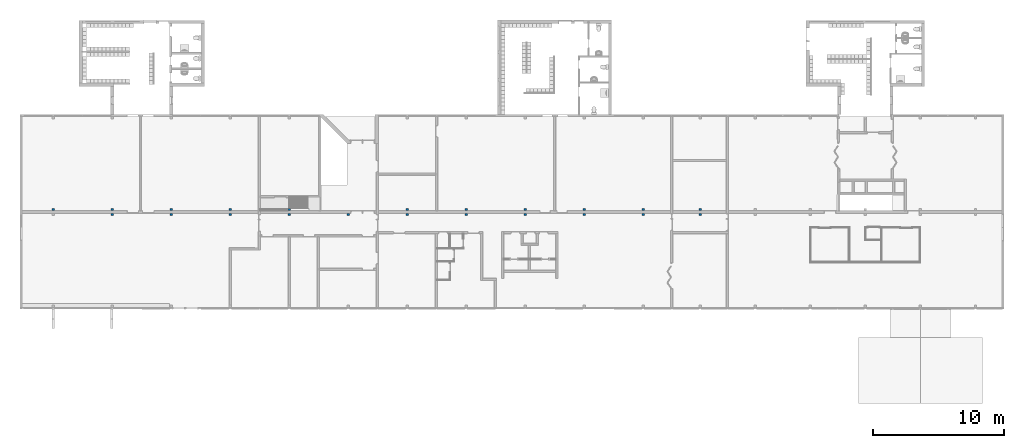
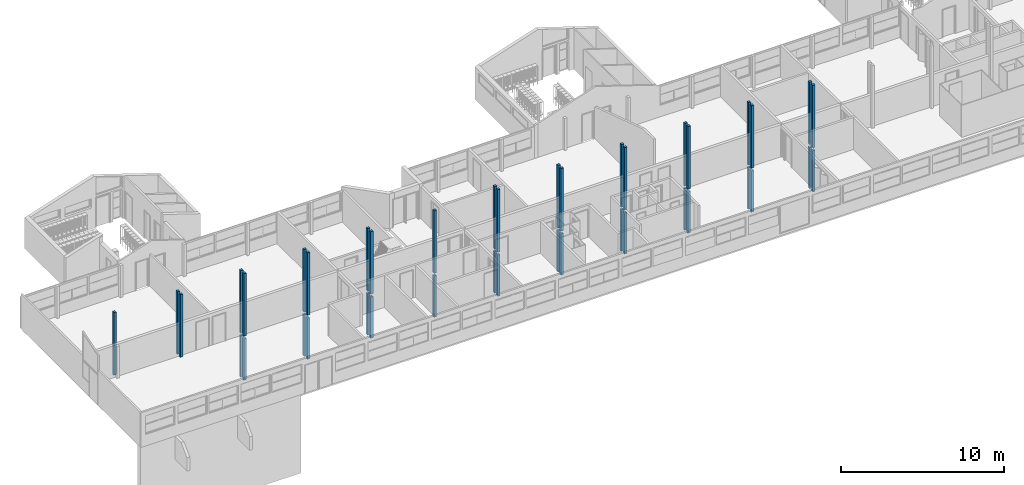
# One storey, part 1 of 48: 44 columns.
"""IFC2X3 building model written with IfcOpenShell, lengths in millimetres."""

from ifc_helpers import new_model, entity, si_unit, converted_unit, derived_unit, money_unit, direction, frame, origin_with_axes, place, context, subcontext, project, spatial, faceted_brep, source, transform, mapped, material, type_object, element, save


model = new_model("IFC2X3")

# Units and contexts
model_context = context("Model", 3, precision=0.01, world=origin_with_axes(), true_north=direction((0.0, 1.0)))
body_context = subcontext(model_context, "Body", "Model", "MODEL_VIEW")
ifc_project = project(units=[si_unit("LENGTHUNIT", "METRE", prefix="MILLI"), si_unit("AREAUNIT", "SQUARE_METRE"), si_unit("VOLUMEUNIT", "CUBIC_METRE"), converted_unit("PLANEANGLEUNIT", "DEGREE", entity("IfcPlaneAngleMeasure", 0.0174532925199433), si_unit("PLANEANGLEUNIT", "RADIAN"), dimensions=[0, 0, 0, 0, 0, 0, 0]), money_unit("USD"), converted_unit("TIMEUNIT", "Year", entity("IfcTimeMeasure", 31557600.0), si_unit("TIMEUNIT", "SECOND"), dimensions=[0, 0, 1, 0, 0, 0, 0]), si_unit("MASSUNIT", "GRAM", prefix="KILO"), si_unit("THERMODYNAMICTEMPERATUREUNIT", "DEGREE_CELSIUS"), si_unit("LUMINOUSINTENSITYUNIT", "LUMEN"), si_unit("ENERGYUNIT", "JOULE", prefix="MEGA"), derived_unit("THERMALCONDUCTANCEUNIT", [(si_unit("POWERUNIT", "WATT"), 1), (si_unit("LENGTHUNIT", "METRE"), -1), (si_unit("THERMODYNAMICTEMPERATUREUNIT", "KELVIN"), -1)]), derived_unit("SPECIFICHEATCAPACITYUNIT", [(si_unit("ENERGYUNIT", "JOULE"), 1), (si_unit("MASSUNIT", "GRAM", prefix="KILO"), -1), (si_unit("THERMODYNAMICTEMPERATUREUNIT", "KELVIN"), -1)]), derived_unit("MASSDENSITYUNIT", [(si_unit("MASSUNIT", "GRAM", prefix="KILO"), 1), (si_unit("VOLUMEUNIT", "CUBIC_METRE"), -1)])], contexts=[model_context])

# Site, building, storey
site_placement = place(None, origin_with_axes())
site = spatial("IfcSite", under=ifc_project, at=site_placement, Name="Site", CompositionType="ELEMENT")
building_placement = place(site_placement, origin_with_axes())
building = spatial("IfcBuilding", under=site, at=building_placement, Name="Building", CompositionType="ELEMENT")
storey_placement = place(building_placement, frame((0.0, 0.0, 3300.0), z_axis=(0.0, 0.0, 1.0), x_axis=(1.0, 0.0, 0.0)))
storey = spatial("IfcBuildingStorey", under=building, at=storey_placement, Name="1 ETG", CompositionType="ELEMENT", Elevation=3300.0)

# Columns
ifc_material = material(Name="GENERIC - STRUCTURAL")
column_type = type_object("IfcColumnType", Name="GENERIC - STRUCTURAL 180 x 180", PredefinedType="COLUMN")
shared_shape_1 = source(origin_with_axes(), body_context, "Body", "Brep", [
    faceted_brep([(4589.999999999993, 14220.0, 8000.0), (4409.999999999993, 14220.0, 8000.0), (4409.999999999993, 14220.0, 3300.0), (4589.999999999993, 14220.0, 3300.0), (4589.999999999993, 14400.0, 8000.0), (4409.999999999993, 14400.0, 8000.0), (4409.999999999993, 14400.0, 3300.0), (4589.999999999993, 14400.0, 3300.0)], [[[0, 1, 2, 3]], [[4, 5, 1, 0]], [[1, 5, 6, 2]], [[7, 3, 2, 6]], [[4, 0, 3, 7]], [[5, 4, 7, 6]]]),
])
for number, where, z_axis, x_axis, name in (
    (1, (4499.999999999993, 14310.0, 0.0), (0.0, 0.0, 1.0), (1.0, 0.0, 0.0), "CRE - 001"),
    (2, (4499.999999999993, 14310.0, 0.0), (0.0, 0.0, 1.0), (1.0, 0.0, 0.0), "CRE - 001"),
):
    element("IfcColumn", number, at=place(storey_placement, frame(where, z_axis=z_axis, x_axis=x_axis)), inside=storey, type_object=column_type, material=ifc_material, Name=name, ObjectType="COLUMN", context=body_context, shape_type="MappedRepresentation", body=[
        mapped(shared_shape_1, transform((-4499.999999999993, -14310.0, -3300.0))),
    ])
shared_shape_2 = source(origin_with_axes(), body_context, "Body", "Brep", [
    faceted_brep([(8910.0, 14400.0, 0.0), (8910.0, 14400.0, 3100.0), (9090.0, 14400.0, 3100.0), (9090.0, 14400.0, 0.0), (8910.0, 14220.0, 0.0), (8910.0, 14220.0, 3100.0), (9090.0, 14220.0, 3100.0), (9090.0, 14220.0, 0.0)], [[[0, 1, 2, 3]], [[4, 5, 1, 0]], [[5, 6, 2, 1]], [[3, 2, 6, 7]], [[3, 7, 4, 0]], [[7, 6, 5, 4]]]),
    faceted_brep([(9090.0, 14220.0, 8000.0), (9090.0, 14220.0, 3300.0), (9090.0, 14400.0, 3300.0), (9090.0, 14400.0, 8000.0), (8910.0, 14220.0, 8000.0), (8910.0, 14220.0, 3300.0), (8910.0, 14400.0, 3300.0), (8910.0, 14400.0, 8000.0)], [[[0, 1, 2, 3]], [[4, 5, 1, 0]], [[5, 6, 2, 1]], [[3, 2, 6, 7]], [[3, 7, 4, 0]], [[7, 6, 5, 4]]]),
])
for number, where, z_axis, x_axis, name in (
    (3, (9000.0, 14310.0, -3300.0), (0.0, 0.0, 1.0), (1.0, 0.0, 0.0), "CRE - 001"),
    (4, (9000.0, 14310.0, -3300.0), (0.0, 0.0, 1.0), (1.0, 0.0, 0.0), "CRE - 001"),
):
    element("IfcColumn", number, at=place(storey_placement, frame(where, z_axis=z_axis, x_axis=x_axis)), inside=storey, type_object=column_type, material=ifc_material, Name=name, ObjectType="COLUMN", context=body_context, shape_type="MappedRepresentation", body=[
        mapped(shared_shape_2, transform((-9000.0, -14310.0, 0.0))),
    ])
shared_shape_3 = source(origin_with_axes(), body_context, "Body", "Brep", [
    faceted_brep([(13410.0, 14400.0, 0.0), (13410.0, 14400.0, 3100.0), (13590.0, 14400.0, 3100.0), (13590.0, 14400.0, 0.0), (13410.0, 14220.0, 0.0), (13410.0, 14220.0, 3100.0), (13590.0, 14220.0, 3100.0), (13590.0, 14220.0, 0.0)], [[[0, 1, 2, 3]], [[4, 5, 1, 0]], [[5, 6, 2, 1]], [[3, 2, 6, 7]], [[3, 7, 4, 0]], [[7, 6, 5, 4]]]),
    faceted_brep([(13590.0, 14220.0, 8000.0), (13590.0, 14220.0, 3300.0), (13590.0, 14400.0, 3300.0), (13590.0, 14400.0, 8000.0), (13410.0, 14220.0, 8000.0), (13410.0, 14220.0, 3300.0), (13410.0, 14400.0, 3300.0), (13410.0, 14400.0, 8000.0)], [[[0, 1, 2, 3]], [[4, 5, 1, 0]], [[5, 6, 2, 1]], [[3, 2, 6, 7]], [[3, 7, 4, 0]], [[7, 6, 5, 4]]]),
])
for number, where, z_axis, x_axis, name in (
    (5, (13500.0, 14310.0, -3300.0), (0.0, 0.0, 1.0), (1.0, 0.0, 0.0), "CRE - 001"),
    (6, (13500.0, 14310.0, -3300.0), (0.0, 0.0, 1.0), (1.0, 0.0, 0.0), "CRE - 001"),
):
    element("IfcColumn", number, at=place(storey_placement, frame(where, z_axis=z_axis, x_axis=x_axis)), inside=storey, type_object=column_type, material=ifc_material, Name=name, ObjectType="COLUMN", context=body_context, shape_type="MappedRepresentation", body=[
        mapped(shared_shape_3, transform((-13500.0, -14310.0, 0.0))),
    ])
shared_shape_4 = source(origin_with_axes(), body_context, "Body", "Brep", [
    faceted_brep([(17910.00000000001, 14400.0, 0.0), (17910.00000000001, 14400.0, 3100.0), (18090.00000000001, 14400.0, 3100.0), (18090.00000000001, 14400.0, 0.0), (17910.00000000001, 14220.0, 0.0), (17910.00000000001, 14220.0, 3100.0), (18090.00000000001, 14220.0, 3100.0), (18090.00000000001, 14220.0, 0.0)], [[[0, 1, 2, 3]], [[4, 5, 1, 0]], [[5, 6, 2, 1]], [[3, 2, 6, 7]], [[3, 7, 4, 0]], [[7, 6, 5, 4]]]),
    faceted_brep([(18090.00000000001, 14220.0, 8000.0), (18090.00000000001, 14220.0, 3300.0), (18090.00000000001, 14400.0, 3300.0), (18090.00000000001, 14400.0, 8000.0), (17910.00000000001, 14220.0, 8000.0), (17910.00000000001, 14220.0, 3300.0), (17910.00000000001, 14400.0, 3300.0), (17910.00000000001, 14400.0, 8000.0)], [[[0, 1, 2, 3]], [[4, 5, 1, 0]], [[5, 6, 2, 1]], [[3, 2, 6, 7]], [[3, 7, 4, 0]], [[7, 6, 5, 4]]]),
])
for number, where, z_axis, x_axis, name in (
    (7, (18000.00000000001, 14310.0, -3300.0), (0.0, 0.0, 1.0), (1.0, 0.0, 0.0), "CRE - 001"),
    (8, (18000.00000000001, 14310.0, -3300.0), (0.0, 0.0, 1.0), (1.0, 0.0, 0.0), "CRE - 001"),
):
    element("IfcColumn", number, at=place(storey_placement, frame(where, z_axis=z_axis, x_axis=x_axis)), inside=storey, type_object=column_type, material=ifc_material, Name=name, ObjectType="COLUMN", context=body_context, shape_type="MappedRepresentation", body=[
        mapped(shared_shape_4, transform((-18000.00000000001, -14310.0, 0.0))),
    ])
shared_shape_5 = source(origin_with_axes(), body_context, "Body", "Brep", [
    faceted_brep([(22410.0, 14400.0, 0.0), (22410.0, 14400.0, 3100.0), (22590.0, 14400.0, 3100.0), (22590.0, 14400.0, 0.0), (22410.0, 14220.0, 0.0), (22410.0, 14220.0, 3100.0), (22590.0, 14220.0, 3100.0), (22590.0, 14220.0, 0.0)], [[[0, 1, 2, 3]], [[4, 5, 1, 0]], [[5, 6, 2, 1]], [[3, 2, 6, 7]], [[3, 7, 4, 0]], [[7, 6, 5, 4]]]),
    faceted_brep([(22590.0, 14220.0, 8000.0), (22590.0, 14220.0, 3300.0), (22590.0, 14400.0, 3300.0), (22590.0, 14400.0, 8000.0), (22410.0, 14220.0, 8000.0), (22410.0, 14220.0, 3300.0), (22410.0, 14400.0, 3300.0), (22410.0, 14400.0, 8000.0)], [[[0, 1, 2, 3]], [[4, 5, 1, 0]], [[5, 6, 2, 1]], [[3, 2, 6, 7]], [[3, 7, 4, 0]], [[7, 6, 5, 4]]]),
])
for number, where, z_axis, x_axis, name in (
    (9, (22500.0, 14310.0, -3300.0), (0.0, 0.0, 1.0), (1.0, 0.0, 0.0), "CRE - 001"),
    (10, (22500.0, 14310.0, -3300.0), (0.0, 0.0, 1.0), (1.0, 0.0, 0.0), "CRE - 001"),
):
    element("IfcColumn", number, at=place(storey_placement, frame(where, z_axis=z_axis, x_axis=x_axis)), inside=storey, type_object=column_type, material=ifc_material, Name=name, ObjectType="COLUMN", context=body_context, shape_type="MappedRepresentation", body=[
        mapped(shared_shape_5, transform((-22500.0, -14310.0, 0.0))),
    ])
shared_shape_6 = source(origin_with_axes(), body_context, "Body", "Brep", [
    faceted_brep([(31410.0, 14400.0, 0.0), (31410.0, 14400.0, 3100.0), (31590.0, 14400.0, 3100.0), (31590.0, 14400.0, 0.0), (31410.0, 14220.0, 0.0), (31410.0, 14220.0, 3100.0), (31590.0, 14220.0, 3100.0), (31590.0, 14220.0, 0.0)], [[[0, 1, 2, 3]], [[4, 5, 1, 0]], [[5, 6, 2, 1]], [[3, 2, 6, 7]], [[3, 7, 4, 0]], [[7, 6, 5, 4]]]),
    faceted_brep([(31590.0, 14220.0, 8000.0), (31590.0, 14220.0, 3300.0), (31590.0, 14400.0, 3300.0), (31590.0, 14400.0, 8000.0), (31410.0, 14220.0, 8000.0), (31410.0, 14220.0, 3300.0), (31410.0, 14400.0, 3300.0), (31410.0, 14400.0, 8000.0)], [[[0, 1, 2, 3]], [[4, 5, 1, 0]], [[5, 6, 2, 1]], [[3, 2, 6, 7]], [[3, 7, 4, 0]], [[7, 6, 5, 4]]]),
])
for number, where, z_axis, x_axis, name in (
    (11, (31500.0, 14310.0, -3300.0), (0.0, 0.0, 1.0), (1.0, 0.0, 0.0), "CRE - 001"),
    (12, (31500.0, 14310.0, -3300.0), (0.0, 0.0, 1.0), (1.0, 0.0, 0.0), "CRE - 001"),
):
    element("IfcColumn", number, at=place(storey_placement, frame(where, z_axis=z_axis, x_axis=x_axis)), inside=storey, type_object=column_type, material=ifc_material, Name=name, ObjectType="COLUMN", context=body_context, shape_type="MappedRepresentation", body=[
        mapped(shared_shape_6, transform((-31500.0, -14310.0, 0.0))),
    ])
shared_shape_7 = source(origin_with_axes(), body_context, "Body", "Brep", [
    faceted_brep([(26910.0, 14400.0, 0.0), (26910.0, 14400.0, 3100.0), (27090.0, 14400.0, 3100.0), (27090.0, 14400.0, 0.0), (26910.0, 14220.0, 0.0), (26910.0, 14220.0, 3100.0), (27090.0, 14220.0, 3100.0), (27090.0, 14220.0, 0.0)], [[[0, 1, 2, 3]], [[4, 5, 1, 0]], [[5, 6, 2, 1]], [[3, 2, 6, 7]], [[3, 7, 4, 0]], [[7, 6, 5, 4]]]),
    faceted_brep([(27090.0, 14220.0, 8000.0), (27090.0, 14220.0, 3300.0), (27090.0, 14400.0, 3300.0), (27090.0, 14400.0, 8000.0), (26910.0, 14220.0, 8000.0), (26910.0, 14220.0, 3300.0), (26910.0, 14400.0, 3300.0), (26910.0, 14400.0, 8000.0)], [[[0, 1, 2, 3]], [[4, 5, 1, 0]], [[5, 6, 2, 1]], [[3, 2, 6, 7]], [[3, 7, 4, 0]], [[7, 6, 5, 4]]]),
])
for number, where, z_axis, x_axis, name in (
    (13, (27000.0, 14310.0, -3300.0), (0.0, 0.0, 1.0), (1.0, 0.0, 0.0), "CRE - 001"),
    (14, (27000.0, 14310.0, -3300.0), (0.0, 0.0, 1.0), (1.0, 0.0, 0.0), "CRE - 001"),
):
    element("IfcColumn", number, at=place(storey_placement, frame(where, z_axis=z_axis, x_axis=x_axis)), inside=storey, type_object=column_type, material=ifc_material, Name=name, ObjectType="COLUMN", context=body_context, shape_type="MappedRepresentation", body=[
        mapped(shared_shape_7, transform((-27000.0, -14310.0, 0.0))),
    ])
shared_shape_8 = source(origin_with_axes(), body_context, "Body", "Brep", [
    faceted_brep([(35910.0, 14400.0, 0.0), (35910.0, 14400.0, 3100.0), (36090.0, 14400.0, 3100.0), (36090.0, 14400.0, 0.0), (35910.0, 14220.0, 0.0), (35910.0, 14220.0, 3100.0), (36090.0, 14220.0, 3100.0), (36090.0, 14220.0, 0.0)], [[[0, 1, 2, 3]], [[4, 5, 1, 0]], [[5, 6, 2, 1]], [[3, 2, 6, 7]], [[3, 7, 4, 0]], [[7, 6, 5, 4]]]),
    faceted_brep([(36090.0, 14220.0, 8000.0), (36090.0, 14220.0, 3300.0), (36090.0, 14400.0, 3300.0), (36090.0, 14400.0, 8000.0), (35910.0, 14220.0, 8000.0), (35910.0, 14220.0, 3300.0), (35910.0, 14400.0, 3300.0), (35910.0, 14400.0, 8000.0)], [[[0, 1, 2, 3]], [[4, 5, 1, 0]], [[5, 6, 2, 1]], [[3, 2, 6, 7]], [[3, 7, 4, 0]], [[7, 6, 5, 4]]]),
])
for number, where, z_axis, x_axis, name in (
    (15, (36000.0, 14310.0, -3300.0), (0.0, 0.0, 1.0), (1.0, 0.0, 0.0), "CRE - 001"),
    (16, (36000.0, 14310.0, -3300.0), (0.0, 0.0, 1.0), (1.0, 0.0, 0.0), "CRE - 001"),
):
    element("IfcColumn", number, at=place(storey_placement, frame(where, z_axis=z_axis, x_axis=x_axis)), inside=storey, type_object=column_type, material=ifc_material, Name=name, ObjectType="COLUMN", context=body_context, shape_type="MappedRepresentation", body=[
        mapped(shared_shape_8, transform((-36000.0, -14310.0, 0.0))),
    ])
shared_shape_9 = source(origin_with_axes(), body_context, "Body", "Brep", [
    faceted_brep([(40410.0, 14400.0, 0.0), (40410.0, 14400.0, 3100.0), (40590.0, 14400.0, 3100.0), (40590.0, 14400.0, 0.0), (40410.0, 14220.0, 0.0), (40410.0, 14220.0, 3100.0), (40590.0, 14220.0, 3100.0), (40590.0, 14220.0, 0.0)], [[[0, 1, 2, 3]], [[4, 5, 1, 0]], [[5, 6, 2, 1]], [[3, 2, 6, 7]], [[3, 7, 4, 0]], [[7, 6, 5, 4]]]),
    faceted_brep([(40590.0, 14220.0, 8000.0), (40590.0, 14220.0, 3300.0), (40590.0, 14400.0, 3300.0), (40590.0, 14400.0, 8000.0), (40410.0, 14220.0, 8000.0), (40410.0, 14220.0, 3300.0), (40410.0, 14400.0, 3300.0), (40410.0, 14400.0, 8000.0)], [[[0, 1, 2, 3]], [[4, 5, 1, 0]], [[5, 6, 2, 1]], [[3, 2, 6, 7]], [[3, 7, 4, 0]], [[7, 6, 5, 4]]]),
])
for number, where, z_axis, x_axis, name in (
    (17, (40500.0, 14310.0, -3300.0), (0.0, 0.0, 1.0), (1.0, 0.0, 0.0), "CRE - 001"),
    (18, (40500.0, 14310.0, -3300.0), (0.0, 0.0, 1.0), (1.0, 0.0, 0.0), "CRE - 001"),
):
    element("IfcColumn", number, at=place(storey_placement, frame(where, z_axis=z_axis, x_axis=x_axis)), inside=storey, type_object=column_type, material=ifc_material, Name=name, ObjectType="COLUMN", context=body_context, shape_type="MappedRepresentation", body=[
        mapped(shared_shape_9, transform((-40500.0, -14310.0, 0.0))),
    ])
shared_shape_10 = source(origin_with_axes(), body_context, "Body", "Brep", [
    faceted_brep([(44909.99999999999, 14400.0, 0.0), (44909.99999999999, 14400.0, 3100.0), (45089.99999999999, 14400.0, 3100.0), (45089.99999999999, 14400.0, 0.0), (44909.99999999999, 14220.0, 0.0), (44909.99999999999, 14220.0, 3100.0), (45089.99999999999, 14220.0, 3100.0), (45089.99999999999, 14220.0, 0.0)], [[[0, 1, 2, 3]], [[4, 5, 1, 0]], [[5, 6, 2, 1]], [[3, 2, 6, 7]], [[3, 7, 4, 0]], [[7, 6, 5, 4]]]),
    faceted_brep([(45089.99999999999, 14220.0, 8000.0), (45089.99999999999, 14220.0, 3300.0), (45089.99999999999, 14400.0, 3300.0), (45089.99999999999, 14400.0, 8000.0), (44909.99999999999, 14220.0, 8000.0), (44909.99999999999, 14220.0, 3300.0), (44909.99999999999, 14400.0, 3300.0), (44909.99999999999, 14400.0, 8000.0)], [[[0, 1, 2, 3]], [[4, 5, 1, 0]], [[5, 6, 2, 1]], [[3, 2, 6, 7]], [[3, 7, 4, 0]], [[7, 6, 5, 4]]]),
])
for number, where, z_axis, x_axis, name in (
    (19, (44999.99999999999, 14310.0, -3300.0), (0.0, 0.0, 1.0), (1.0, 0.0, 0.0), "CRE - 001"),
    (20, (44999.99999999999, 14310.0, -3300.0), (0.0, 0.0, 1.0), (1.0, 0.0, 0.0), "CRE - 001"),
):
    element("IfcColumn", number, at=place(storey_placement, frame(where, z_axis=z_axis, x_axis=x_axis)), inside=storey, type_object=column_type, material=ifc_material, Name=name, ObjectType="COLUMN", context=body_context, shape_type="MappedRepresentation", body=[
        mapped(shared_shape_10, transform((-44999.99999999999, -14310.0, 0.0))),
    ])
shared_shape_11 = source(origin_with_axes(), body_context, "Body", "Brep", [
    faceted_brep([(49259.99999999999, 14400.0, 0.0), (49259.99999999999, 14400.0, 3100.0), (49440.0, 14400.0, 3100.0), (49440.0, 14400.0, 0.0), (49259.99999999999, 14220.0, 0.0), (49259.99999999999, 14220.0, 3100.0), (49440.0, 14220.0, 3100.0), (49440.0, 14220.0, 0.0)], [[[0, 1, 2, 3]], [[4, 5, 1, 0]], [[5, 6, 2, 1]], [[3, 2, 6, 7]], [[3, 7, 4, 0]], [[7, 6, 5, 4]]]),
    faceted_brep([(49440.0, 14220.0, 8000.0), (49440.0, 14220.0, 3300.0), (49440.0, 14400.0, 3300.0), (49440.0, 14400.0, 8000.0), (49259.99999999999, 14220.0, 8000.0), (49259.99999999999, 14220.0, 3300.0), (49259.99999999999, 14400.0, 3300.0), (49259.99999999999, 14400.0, 8000.0)], [[[0, 1, 2, 3]], [[4, 5, 1, 0]], [[5, 6, 2, 1]], [[3, 2, 6, 7]], [[3, 7, 4, 0]], [[7, 6, 5, 4]]]),
])
for number, where, z_axis, x_axis, name in (
    (21, (49349.99999999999, 14310.0, -3300.0), (0.0, 0.0, 1.0), (1.0, 0.0, 0.0), "CRE - 001"),
    (22, (49349.99999999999, 14310.0, -3300.0), (0.0, 0.0, 1.0), (1.0, 0.0, 0.0), "CRE - 001"),
):
    element("IfcColumn", number, at=place(storey_placement, frame(where, z_axis=z_axis, x_axis=x_axis)), inside=storey, type_object=column_type, material=ifc_material, Name=name, ObjectType="COLUMN", context=body_context, shape_type="MappedRepresentation", body=[
        mapped(shared_shape_11, transform((-49349.99999999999, -14310.0, 0.0))),
    ])
shared_shape_12 = source(origin_with_axes(), body_context, "Body", "Brep", [
    faceted_brep([(44909.99999999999, 14780.0, 0.0), (44909.99999999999, 14780.0, 3100.0), (45089.99999999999, 14780.0, 3100.0), (45089.99999999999, 14780.0, 0.0), (44909.99999999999, 14600.0, 0.0), (44909.99999999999, 14600.0, 3100.0), (45089.99999999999, 14600.0, 3100.0), (45089.99999999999, 14600.0, 0.0)], [[[0, 1, 2, 3]], [[4, 5, 1, 0]], [[5, 6, 2, 1]], [[3, 2, 6, 7]], [[3, 7, 4, 0]], [[7, 6, 5, 4]]]),
    faceted_brep([(45089.99999999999, 14600.0, 8000.0), (45089.99999999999, 14600.0, 3300.0), (45089.99999999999, 14780.0, 3300.0), (45089.99999999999, 14780.0, 8000.0), (44909.99999999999, 14600.0, 8000.0), (44909.99999999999, 14600.0, 3300.0), (44909.99999999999, 14780.0, 3300.0), (44909.99999999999, 14780.0, 8000.0)], [[[0, 1, 2, 3]], [[4, 5, 1, 0]], [[5, 6, 2, 1]], [[3, 2, 6, 7]], [[3, 7, 4, 0]], [[7, 6, 5, 4]]]),
])
for number, where, z_axis, x_axis, name in (
    (23, (44999.99999999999, 14690.0, -3300.0), (0.0, 0.0, 1.0), (1.0, 0.0, 0.0), "CRE - 001"),
    (24, (44999.99999999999, 14690.0, -3300.0), (0.0, 0.0, 1.0), (1.0, 0.0, 0.0), "CRE - 001"),
):
    element("IfcColumn", number, at=place(storey_placement, frame(where, z_axis=z_axis, x_axis=x_axis)), inside=storey, type_object=column_type, material=ifc_material, Name=name, ObjectType="COLUMN", context=body_context, shape_type="MappedRepresentation", body=[
        mapped(shared_shape_12, transform((-44999.99999999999, -14690.0, 0.0))),
    ])
shared_shape_13 = source(origin_with_axes(), body_context, "Body", "Brep", [
    faceted_brep([(35910.0, 14780.0, 0.0), (35910.0, 14780.0, 3100.0), (36090.0, 14780.0, 3100.0), (36090.0, 14780.0, 0.0), (35910.0, 14600.0, 0.0), (35910.0, 14600.0, 3100.0), (36090.0, 14600.0, 3100.0), (36090.0, 14600.0, 0.0)], [[[0, 1, 2, 3]], [[4, 5, 1, 0]], [[5, 6, 2, 1]], [[3, 2, 6, 7]], [[3, 7, 4, 0]], [[7, 6, 5, 4]]]),
    faceted_brep([(36090.0, 14600.0, 8000.0), (36090.0, 14600.0, 3300.0), (36090.0, 14780.0, 3300.0), (36090.0, 14780.0, 8000.0), (35910.0, 14600.0, 8000.0), (35910.0, 14600.0, 3300.0), (35910.0, 14780.0, 3300.0), (35910.0, 14780.0, 8000.0)], [[[0, 1, 2, 3]], [[4, 5, 1, 0]], [[5, 6, 2, 1]], [[3, 2, 6, 7]], [[3, 7, 4, 0]], [[7, 6, 5, 4]]]),
])
for number, where, z_axis, x_axis, name in (
    (25, (36000.0, 14690.0, -3300.0), (0.0, 0.0, 1.0), (1.0, 0.0, 0.0), "CRE - 001"),
    (26, (36000.0, 14690.0, -3300.0), (0.0, 0.0, 1.0), (1.0, 0.0, 0.0), "CRE - 001"),
):
    element("IfcColumn", number, at=place(storey_placement, frame(where, z_axis=z_axis, x_axis=x_axis)), inside=storey, type_object=column_type, material=ifc_material, Name=name, ObjectType="COLUMN", context=body_context, shape_type="MappedRepresentation", body=[
        mapped(shared_shape_13, transform((-36000.0, -14690.0, 0.0))),
    ])
shared_shape_14 = source(origin_with_axes(), body_context, "Body", "Brep", [
    faceted_brep([(49259.99999999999, 14780.0, 0.0), (49259.99999999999, 14780.0, 3100.0), (49440.0, 14780.0, 3100.0), (49440.0, 14780.0, 0.0), (49259.99999999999, 14600.0, 0.0), (49259.99999999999, 14600.0, 3100.0), (49440.0, 14600.0, 3100.0), (49440.0, 14600.0, 0.0)], [[[0, 1, 2, 3]], [[4, 5, 1, 0]], [[5, 6, 2, 1]], [[3, 2, 6, 7]], [[3, 7, 4, 0]], [[7, 6, 5, 4]]]),
    faceted_brep([(49440.0, 14600.0, 8000.0), (49440.0, 14600.0, 3300.0), (49440.0, 14780.0, 3300.0), (49440.0, 14780.0, 8000.0), (49259.99999999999, 14600.0, 8000.0), (49259.99999999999, 14600.0, 3300.0), (49259.99999999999, 14780.0, 3300.0), (49259.99999999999, 14780.0, 8000.0)], [[[0, 1, 2, 3]], [[4, 5, 1, 0]], [[5, 6, 2, 1]], [[3, 2, 6, 7]], [[3, 7, 4, 0]], [[7, 6, 5, 4]]]),
])
for number, where, z_axis, x_axis, name in (
    (27, (49349.99999999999, 14690.0, -3300.0), (0.0, 0.0, 1.0), (1.0, 0.0, 0.0), "CRE - 001"),
    (28, (49349.99999999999, 14690.0, -3300.0), (0.0, 0.0, 1.0), (1.0, 0.0, 0.0), "CRE - 001"),
):
    element("IfcColumn", number, at=place(storey_placement, frame(where, z_axis=z_axis, x_axis=x_axis)), inside=storey, type_object=column_type, material=ifc_material, Name=name, ObjectType="COLUMN", context=body_context, shape_type="MappedRepresentation", body=[
        mapped(shared_shape_14, transform((-49349.99999999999, -14690.0, 0.0))),
    ])
shared_shape_15 = source(origin_with_axes(), body_context, "Body", "Brep", [
    faceted_brep([(40410.0, 14780.0, 0.0), (40410.0, 14780.0, 3100.0), (40590.0, 14780.0, 3100.0), (40590.0, 14780.0, 0.0), (40410.0, 14600.0, 0.0), (40410.0, 14600.0, 3100.0), (40590.0, 14600.0, 3100.0), (40590.0, 14600.0, 0.0)], [[[0, 1, 2, 3]], [[4, 5, 1, 0]], [[5, 6, 2, 1]], [[3, 2, 6, 7]], [[3, 7, 4, 0]], [[7, 6, 5, 4]]]),
    faceted_brep([(40590.0, 14600.0, 8000.0), (40590.0, 14600.0, 3300.0), (40590.0, 14780.0, 3300.0), (40590.0, 14780.0, 8000.0), (40410.0, 14600.0, 8000.0), (40410.0, 14600.0, 3300.0), (40410.0, 14780.0, 3300.0), (40410.0, 14780.0, 8000.0)], [[[0, 1, 2, 3]], [[4, 5, 1, 0]], [[5, 6, 2, 1]], [[3, 2, 6, 7]], [[3, 7, 4, 0]], [[7, 6, 5, 4]]]),
])
for number, where, z_axis, x_axis, name in (
    (29, (40500.0, 14690.0, -3300.0), (0.0, 0.0, 1.0), (1.0, 0.0, 0.0), "CRE - 001"),
    (30, (40500.0, 14690.0, -3300.0), (0.0, 0.0, 1.0), (1.0, 0.0, 0.0), "CRE - 001"),
):
    element("IfcColumn", number, at=place(storey_placement, frame(where, z_axis=z_axis, x_axis=x_axis)), inside=storey, type_object=column_type, material=ifc_material, Name=name, ObjectType="COLUMN", context=body_context, shape_type="MappedRepresentation", body=[
        mapped(shared_shape_15, transform((-40500.0, -14690.0, 0.0))),
    ])
shared_shape_16 = source(origin_with_axes(), body_context, "Body", "Brep", [
    faceted_brep([(26910.0, 14780.0, 0.0), (26910.0, 14780.0, 3100.0), (27090.0, 14780.0, 3100.0), (27090.0, 14780.0, 0.0), (26910.0, 14600.0, 0.0), (26910.0, 14600.0, 3100.0), (27090.0, 14600.0, 3100.0), (27090.0, 14600.0, 0.0)], [[[0, 1, 2, 3]], [[4, 5, 1, 0]], [[5, 6, 2, 1]], [[3, 2, 6, 7]], [[3, 7, 4, 0]], [[7, 6, 5, 4]]]),
    faceted_brep([(27090.0, 14600.0, 8000.0), (27090.0, 14600.0, 3300.0), (27090.0, 14780.0, 3300.0), (27090.0, 14780.0, 8000.0), (26910.0, 14600.0, 8000.0), (26910.0, 14600.0, 3300.0), (26910.0, 14780.0, 3300.0), (26910.0, 14780.0, 8000.0)], [[[0, 1, 2, 3]], [[4, 5, 1, 0]], [[5, 6, 2, 1]], [[3, 2, 6, 7]], [[3, 7, 4, 0]], [[7, 6, 5, 4]]]),
])
for number, where, z_axis, x_axis, name in (
    (31, (27000.0, 14690.0, -3300.0), (0.0, 0.0, 1.0), (1.0, 0.0, 0.0), "CRE - 001"),
    (32, (27000.0, 14690.0, -3300.0), (0.0, 0.0, 1.0), (1.0, 0.0, 0.0), "CRE - 001"),
):
    element("IfcColumn", number, at=place(storey_placement, frame(where, z_axis=z_axis, x_axis=x_axis)), inside=storey, type_object=column_type, material=ifc_material, Name=name, ObjectType="COLUMN", context=body_context, shape_type="MappedRepresentation", body=[
        mapped(shared_shape_16, transform((-27000.0, -14690.0, 0.0))),
    ])
shared_shape_17 = source(origin_with_axes(), body_context, "Body", "Brep", [
    faceted_brep([(17910.00000000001, 14780.0, 0.0), (17910.00000000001, 14780.0, 3100.0), (18090.00000000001, 14780.0, 3100.0), (18090.00000000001, 14780.0, 0.0), (17910.00000000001, 14600.0, 0.0), (17910.00000000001, 14600.0, 3100.0), (18090.00000000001, 14600.0, 3100.0), (18090.00000000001, 14600.0, 0.0)], [[[0, 1, 2, 3]], [[4, 5, 1, 0]], [[5, 6, 2, 1]], [[3, 2, 6, 7]], [[3, 7, 4, 0]], [[7, 6, 5, 4]]]),
    faceted_brep([(18090.00000000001, 14600.0, 8000.0), (18090.00000000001, 14600.0, 3300.0), (18090.00000000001, 14780.0, 3300.0), (18090.00000000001, 14780.0, 8000.0), (17910.00000000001, 14600.0, 8000.0), (17910.00000000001, 14600.0, 3300.0), (17910.00000000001, 14780.0, 3300.0), (17910.00000000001, 14780.0, 8000.0)], [[[0, 1, 2, 3]], [[4, 5, 1, 0]], [[5, 6, 2, 1]], [[3, 2, 6, 7]], [[3, 7, 4, 0]], [[7, 6, 5, 4]]]),
])
for number, where, z_axis, x_axis, name in (
    (33, (18000.00000000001, 14690.0, -3300.0), (0.0, 0.0, 1.0), (1.0, 0.0, 0.0), "CRE - 001"),
    (34, (18000.00000000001, 14690.0, -3300.0), (0.0, 0.0, 1.0), (1.0, 0.0, 0.0), "CRE - 001"),
):
    element("IfcColumn", number, at=place(storey_placement, frame(where, z_axis=z_axis, x_axis=x_axis)), inside=storey, type_object=column_type, material=ifc_material, Name=name, ObjectType="COLUMN", context=body_context, shape_type="MappedRepresentation", body=[
        mapped(shared_shape_17, transform((-18000.00000000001, -14690.0, 0.0))),
    ])
shared_shape_18 = source(origin_with_axes(), body_context, "Body", "Brep", [
    faceted_brep([(13410.0, 14780.0, 0.0), (13410.0, 14780.0, 3100.0), (13590.0, 14780.0, 3100.0), (13590.0, 14780.0, 0.0), (13410.0, 14600.0, 0.0), (13410.0, 14600.0, 3100.0), (13590.0, 14600.0, 3100.0), (13590.0, 14600.0, 0.0)], [[[0, 1, 2, 3]], [[4, 5, 1, 0]], [[5, 6, 2, 1]], [[3, 2, 6, 7]], [[3, 7, 4, 0]], [[7, 6, 5, 4]]]),
    faceted_brep([(13590.0, 14600.0, 8000.0), (13590.0, 14600.0, 3300.0), (13590.0, 14780.0, 3300.0), (13590.0, 14780.0, 8000.0), (13410.0, 14600.0, 8000.0), (13410.0, 14600.0, 3300.0), (13410.0, 14780.0, 3300.0), (13410.0, 14780.0, 8000.0)], [[[0, 1, 2, 3]], [[4, 5, 1, 0]], [[5, 6, 2, 1]], [[3, 2, 6, 7]], [[3, 7, 4, 0]], [[7, 6, 5, 4]]]),
])
for number, where, z_axis, x_axis, name in (
    (35, (13500.0, 14690.0, -3300.0), (0.0, 0.0, 1.0), (1.0, 0.0, 0.0), "CRE - 001"),
    (36, (13500.0, 14690.0, -3300.0), (0.0, 0.0, 1.0), (1.0, 0.0, 0.0), "CRE - 001"),
):
    element("IfcColumn", number, at=place(storey_placement, frame(where, z_axis=z_axis, x_axis=x_axis)), inside=storey, type_object=column_type, material=ifc_material, Name=name, ObjectType="COLUMN", context=body_context, shape_type="MappedRepresentation", body=[
        mapped(shared_shape_18, transform((-13500.0, -14690.0, 0.0))),
    ])
shared_shape_19 = source(origin_with_axes(), body_context, "Body", "Brep", [
    faceted_brep([(8910.0, 14780.0, 0.0), (8910.0, 14780.0, 3100.0), (9090.0, 14780.0, 3100.0), (9090.0, 14780.0, 0.0), (8910.0, 14600.0, 0.0), (8910.0, 14600.0, 3100.0), (9090.0, 14600.0, 3100.0), (9090.0, 14600.0, 0.0)], [[[0, 1, 2, 3]], [[4, 5, 1, 0]], [[5, 6, 2, 1]], [[3, 2, 6, 7]], [[3, 7, 4, 0]], [[7, 6, 5, 4]]]),
    faceted_brep([(9090.0, 14600.0, 8000.0), (9090.0, 14600.0, 3300.0), (9090.0, 14780.0, 3300.0), (9090.0, 14780.0, 8000.0), (8910.0, 14600.0, 8000.0), (8910.0, 14600.0, 3300.0), (8910.0, 14780.0, 3300.0), (8910.0, 14780.0, 8000.0)], [[[0, 1, 2, 3]], [[4, 5, 1, 0]], [[5, 6, 2, 1]], [[3, 2, 6, 7]], [[3, 7, 4, 0]], [[7, 6, 5, 4]]]),
])
for number, where, z_axis, x_axis, name in (
    (37, (9000.0, 14690.0, -3300.0), (0.0, 0.0, 1.0), (1.0, 0.0, 0.0), "CRE - 001"),
    (38, (9000.0, 14690.0, -3300.0), (0.0, 0.0, 1.0), (1.0, 0.0, 0.0), "CRE - 001"),
):
    element("IfcColumn", number, at=place(storey_placement, frame(where, z_axis=z_axis, x_axis=x_axis)), inside=storey, type_object=column_type, material=ifc_material, Name=name, ObjectType="COLUMN", context=body_context, shape_type="MappedRepresentation", body=[
        mapped(shared_shape_19, transform((-9000.0, -14690.0, 0.0))),
    ])
shared_shape_20 = source(origin_with_axes(), body_context, "Body", "Brep", [
    faceted_brep([(4589.999999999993, 14600.0, 8000.0), (4409.999999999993, 14600.0, 8000.0), (4409.999999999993, 14600.0, 3300.0), (4589.999999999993, 14600.0, 3300.0), (4589.999999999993, 14780.0, 8000.0), (4409.999999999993, 14780.0, 8000.0), (4409.999999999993, 14780.0, 3300.0), (4589.999999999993, 14780.0, 3300.0)], [[[0, 1, 2, 3]], [[4, 5, 1, 0]], [[1, 5, 6, 2]], [[7, 3, 2, 6]], [[4, 0, 3, 7]], [[5, 4, 7, 6]]]),
])
for number, where, z_axis, x_axis, name in (
    (39, (4499.999999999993, 14690.0, 0.0), (0.0, 0.0, 1.0), (1.0, 0.0, 0.0), "CRE - 001"),
    (40, (4499.999999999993, 14690.0, 0.0), (0.0, 0.0, 1.0), (1.0, 0.0, 0.0), "CRE - 001"),
):
    element("IfcColumn", number, at=place(storey_placement, frame(where, z_axis=z_axis, x_axis=x_axis)), inside=storey, type_object=column_type, material=ifc_material, Name=name, ObjectType="COLUMN", context=body_context, shape_type="MappedRepresentation", body=[
        mapped(shared_shape_20, transform((-4499.999999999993, -14690.0, -3300.0))),
    ])
shared_shape_21 = source(origin_with_axes(), body_context, "Body", "Brep", [
    faceted_brep([(90.00000000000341, 14600.0, 8000.0), (-90.00000000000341, 14600.0, 8000.0), (-90.00000000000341, 14600.0, 3300.0), (90.00000000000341, 14600.0, 3300.0), (90.00000000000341, 14780.0, 8000.0), (-90.00000000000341, 14780.0, 8000.0), (-90.00000000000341, 14780.0, 3300.0), (90.00000000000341, 14780.0, 3300.0)], [[[0, 1, 2, 3]], [[4, 5, 1, 0]], [[1, 5, 6, 2]], [[7, 3, 2, 6]], [[4, 0, 3, 7]], [[5, 4, 7, 6]]]),
])
for number, where, z_axis, x_axis, name in (
    (41, (0.0, 14690.0, 0.0), (0.0, 0.0, 1.0), (1.0, 0.0, 0.0), "CRE - 001"),
    (42, (0.0, 14690.0, 0.0), (0.0, 0.0, 1.0), (1.0, 0.0, 0.0), "CRE - 001"),
):
    element("IfcColumn", number, at=place(storey_placement, frame(where, z_axis=z_axis, x_axis=x_axis)), inside=storey, type_object=column_type, material=ifc_material, Name=name, ObjectType="COLUMN", context=body_context, shape_type="MappedRepresentation", body=[
        mapped(shared_shape_21, transform((0.0, -14690.0, -3300.0))),
    ])
shared_shape_22 = source(origin_with_axes(), body_context, "Body", "Brep", [
    faceted_brep([(31410.0, 14780.0, 0.0), (31410.0, 14780.0, 3100.0), (31590.0, 14780.0, 3100.0), (31590.0, 14780.0, 0.0), (31410.0, 14600.0, 0.0), (31410.0, 14600.0, 3100.0), (31590.0, 14600.0, 3100.0), (31590.0, 14600.0, 0.0)], [[[0, 1, 2, 3]], [[4, 5, 1, 0]], [[5, 6, 2, 1]], [[3, 2, 6, 7]], [[3, 7, 4, 0]], [[7, 6, 5, 4]]]),
    faceted_brep([(31590.0, 14600.0, 8000.0), (31590.0, 14600.0, 3300.0), (31590.0, 14780.0, 3300.0), (31590.0, 14780.0, 8000.0), (31410.0, 14600.0, 8000.0), (31410.0, 14600.0, 3300.0), (31410.0, 14780.0, 3300.0), (31410.0, 14780.0, 8000.0)], [[[0, 1, 2, 3]], [[4, 5, 1, 0]], [[5, 6, 2, 1]], [[3, 2, 6, 7]], [[3, 7, 4, 0]], [[7, 6, 5, 4]]]),
])
for number, where, z_axis, x_axis, name in (
    (43, (31500.0, 14690.0, -3300.0), (0.0, 0.0, 1.0), (1.0, 0.0, 0.0), "CRE - 001"),
    (44, (31500.0, 14690.0, -3300.0), (0.0, 0.0, 1.0), (1.0, 0.0, 0.0), "CRE - 001"),
):
    element("IfcColumn", number, at=place(storey_placement, frame(where, z_axis=z_axis, x_axis=x_axis)), inside=storey, type_object=column_type, material=ifc_material, Name=name, ObjectType="COLUMN", context=body_context, shape_type="MappedRepresentation", body=[
        mapped(shared_shape_22, transform((-31500.0, -14690.0, 0.0))),
    ])

save(model, "model.ifc")
